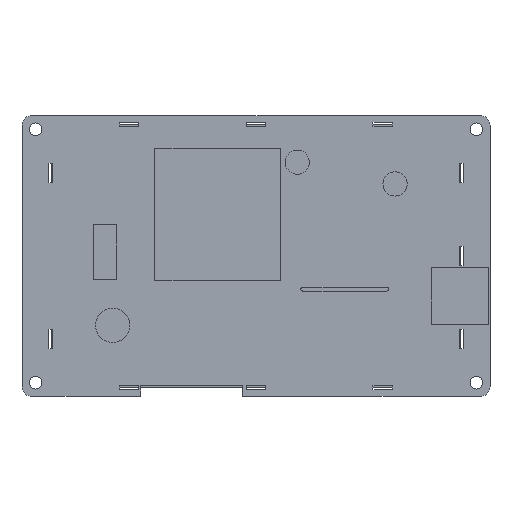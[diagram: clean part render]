
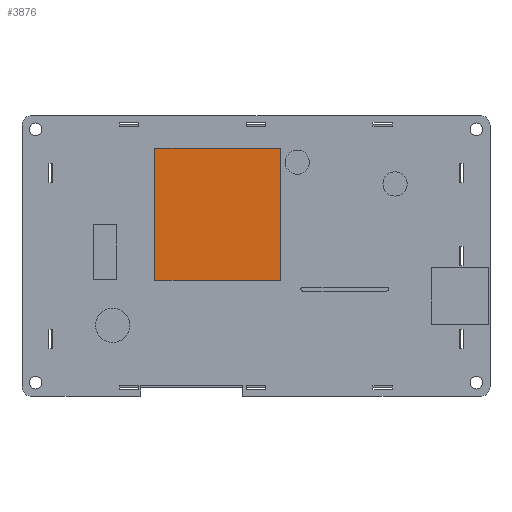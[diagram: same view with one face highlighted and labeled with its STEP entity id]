
A CAD part, top view. The second image highlights one B-rep face of the part: STEP entity #3876.
In plain terms, the highlighted planar face has unit normal (0, 0, 1).
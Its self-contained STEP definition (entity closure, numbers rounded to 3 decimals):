
#1268=DIRECTION('',(0.,-1.,0.));
#1269=VECTOR('',#1268,34.417);
#1270=CARTESIAN_POINT('',(-26.345,28.103,11.8));
#1271=LINE('',#1270,#1269);
#1272=DIRECTION('',(-1.,0.,0.));
#1273=VECTOR('',#1272,32.766);
#1274=CARTESIAN_POINT('',(6.421,28.103,11.8));
#1275=LINE('',#1274,#1273);
#1276=DIRECTION('',(0.,1.,0.));
#1277=VECTOR('',#1276,34.417);
#1278=CARTESIAN_POINT('',(6.421,-6.314,11.8));
#1279=LINE('',#1278,#1277);
#1280=DIRECTION('',(1.,0.,0.));
#1281=VECTOR('',#1280,32.766);
#1282=CARTESIAN_POINT('',(-26.345,-6.314,11.8));
#1283=LINE('',#1282,#1281);
#1850=CARTESIAN_POINT('',(-26.345,28.103,11.8));
#1851=CARTESIAN_POINT('',(-26.345,-6.314,11.8));
#1852=VERTEX_POINT('',#1850);
#1853=VERTEX_POINT('',#1851);
#1854=CARTESIAN_POINT('',(6.421,-6.314,11.8));
#1855=VERTEX_POINT('',#1854);
#1856=CARTESIAN_POINT('',(6.421,28.103,11.8));
#1857=VERTEX_POINT('',#1856);
#3865=CARTESIAN_POINT('',(-3.485,-36.578,11.8));
#3866=DIRECTION('',(0.,0.,1.));
#3867=DIRECTION('',(1.,0.,0.));
#3868=AXIS2_PLACEMENT_3D('',#3865,#3866,#3867);
#3869=PLANE('',#3868);
#3870=ORIENTED_EDGE('',*,*,#3817,.F.);
#3871=ORIENTED_EDGE('',*,*,#3832,.F.);
#3872=ORIENTED_EDGE('',*,*,#3846,.F.);
#3873=ORIENTED_EDGE('',*,*,#3859,.F.);
#3874=EDGE_LOOP('',(#3870,#3871,#3872,#3873));
#3875=FACE_OUTER_BOUND('',#3874,.F.);
#3817=EDGE_CURVE('',#1852,#1853,#1271,.T.);
#3832=EDGE_CURVE('',#1857,#1852,#1275,.T.);
#3846=EDGE_CURVE('',#1855,#1857,#1279,.T.);
#3859=EDGE_CURVE('',#1853,#1855,#1283,.T.);
#3876=ADVANCED_FACE('',(#3875),#3869,.T.);
